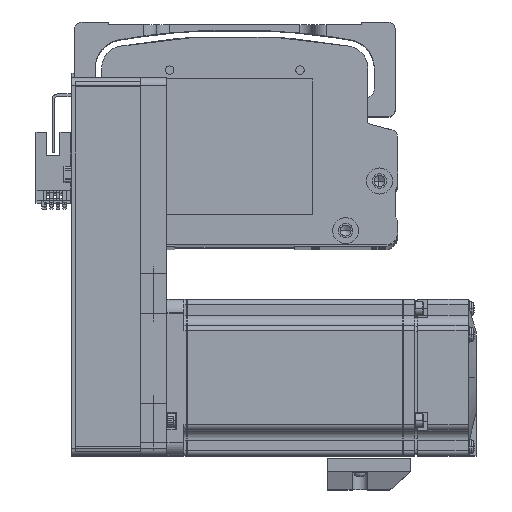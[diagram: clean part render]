
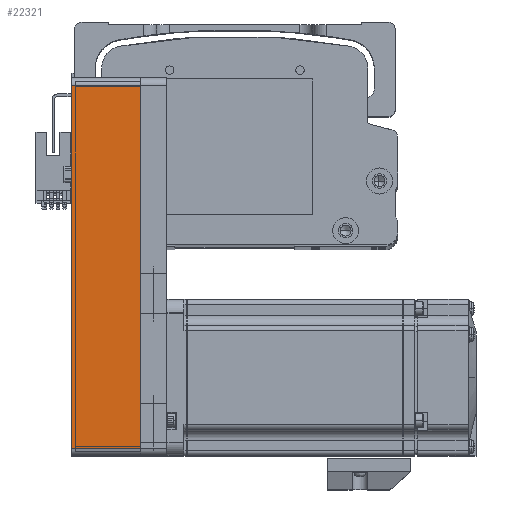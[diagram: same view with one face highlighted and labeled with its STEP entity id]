
A CAD part, top view. The second image highlights one B-rep face of the part: STEP entity #22321.
In plain terms, the highlighted planar face has unit normal (0, 0, 1) as drawn and (0, 1, 0) by its records, which use the part's own axes.
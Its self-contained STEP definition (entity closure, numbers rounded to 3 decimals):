
#2981 = VERTEX_POINT ( 'NONE', #42345 ) ;
#3451 = CARTESIAN_POINT ( 'NONE',  ( 72.5, 30., 26.5 ) ) ;
#6167 = VERTEX_POINT ( 'NONE', #70588 ) ;
#9882 = DIRECTION ( 'NONE',  ( 1., 0., 0. ) ) ;
#22321 = ADVANCED_FACE ( 'NONE', ( #42133 ), #47813, .F. ) ;
#22748 = VECTOR ( 'NONE', #72439, 1000. ) ;
#24297 = DIRECTION ( 'NONE',  ( -1., 0., 0. ) ) ;
#24616 = VERTEX_POINT ( 'NONE', #74657 ) ;
#27362 = DIRECTION ( 'NONE',  ( 0., 0., -1. ) ) ;
#29847 = EDGE_CURVE ( 'NONE', #2981, #24616, #77477, .T. ) ;
#31573 = DIRECTION ( 'NONE',  ( 0., 0., 1. ) ) ;
#35373 = CARTESIAN_POINT ( 'NONE',  ( -69.5, 30., 0. ) ) ;
#36362 = EDGE_CURVE ( 'NONE', #68370, #6167, #42509, .T. ) ;
#42133 = FACE_OUTER_BOUND ( 'NONE', #75973, .T. ) ;
#42345 = CARTESIAN_POINT ( 'NONE',  ( 69.5, 30., 26.5 ) ) ;
#42509 = LINE ( 'NONE', #69891, #44476 ) ;
#43246 = CARTESIAN_POINT ( 'NONE',  ( 72.5, 30., 26.5 ) ) ;
#44476 = VECTOR ( 'NONE', #31573, 1000. ) ;
#47667 = VECTOR ( 'NONE', #24297, 1000. ) ;
#47813 = PLANE ( 'NONE',  #70932 ) ;
#47865 = EDGE_CURVE ( 'NONE', #24616, #68370, #56724, .T. ) ;
#48104 = DIRECTION ( 'NONE',  ( 0., -1., 0. ) ) ;
#52628 = ORIENTED_EDGE ( 'NONE', *, *, #29847, .T. ) ;
#53105 = CARTESIAN_POINT ( 'NONE',  ( 69.5, 30., 26.5 ) ) ;
#56724 = LINE ( 'NONE', #59548, #22748 ) ;
#59548 = CARTESIAN_POINT ( 'NONE',  ( 72.5, 30., 0. ) ) ;
#62028 = ORIENTED_EDGE ( 'NONE', *, *, #36362, .T. ) ;
#62454 = VECTOR ( 'NONE', #27362, 1000. ) ;
#62461 = ORIENTED_EDGE ( 'NONE', *, *, #76792, .F. ) ;
#68370 = VERTEX_POINT ( 'NONE', #35373 ) ;
#69891 = CARTESIAN_POINT ( 'NONE',  ( -69.5, 30., 26.5 ) ) ;
#70588 = CARTESIAN_POINT ( 'NONE',  ( -69.5, 30., 26.5 ) ) ;
#70932 = AXIS2_PLACEMENT_3D ( 'NONE', #3451, #48104, #9882 ) ;
#72439 = DIRECTION ( 'NONE',  ( -1., 0., 0. ) ) ;
#74140 = ORIENTED_EDGE ( 'NONE', *, *, #47865, .T. ) ;
#74657 = CARTESIAN_POINT ( 'NONE',  ( 69.5, 30., 0. ) ) ;
#75973 = EDGE_LOOP ( 'NONE', ( #74140, #62028, #62461, #52628 ) ) ;
#76792 = EDGE_CURVE ( 'NONE', #2981, #6167, #81697, .T. ) ;
#77477 = LINE ( 'NONE', #53105, #62454 ) ;
#81697 = LINE ( 'NONE', #43246, #47667 ) ;
